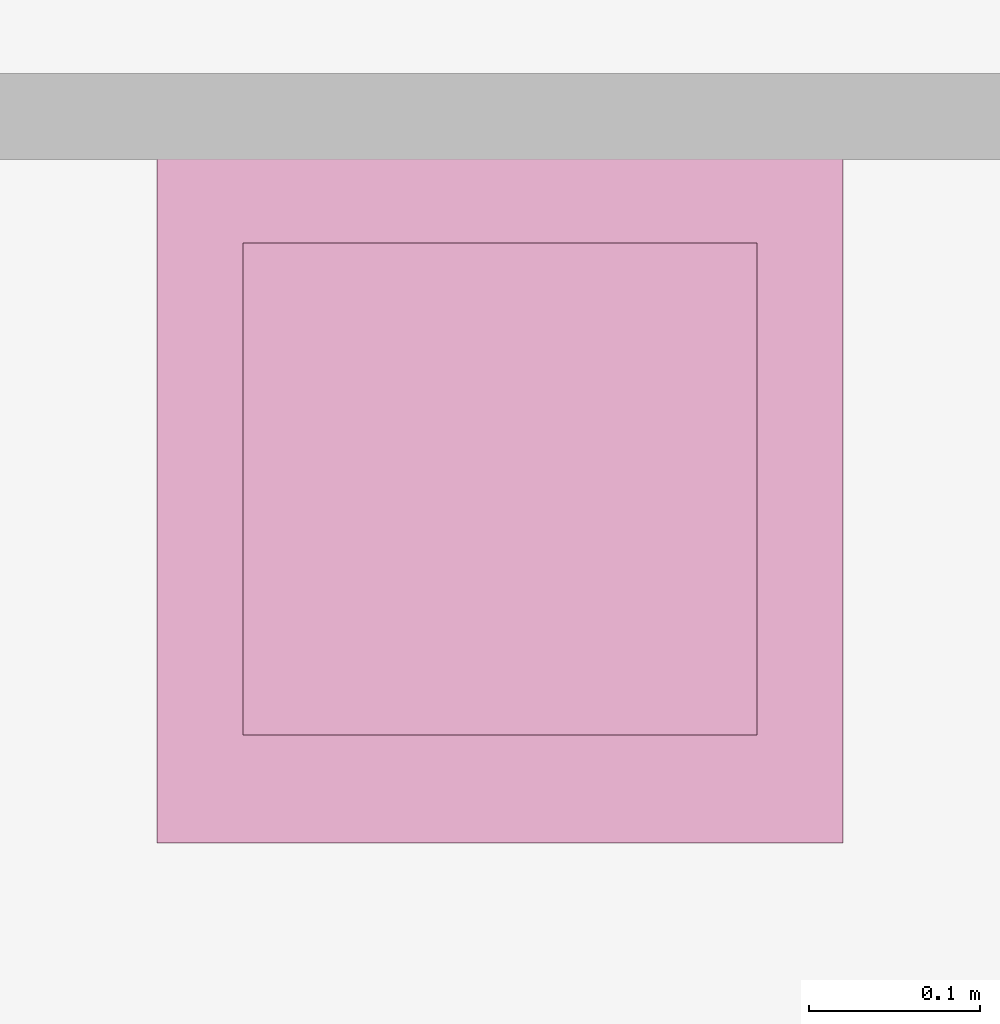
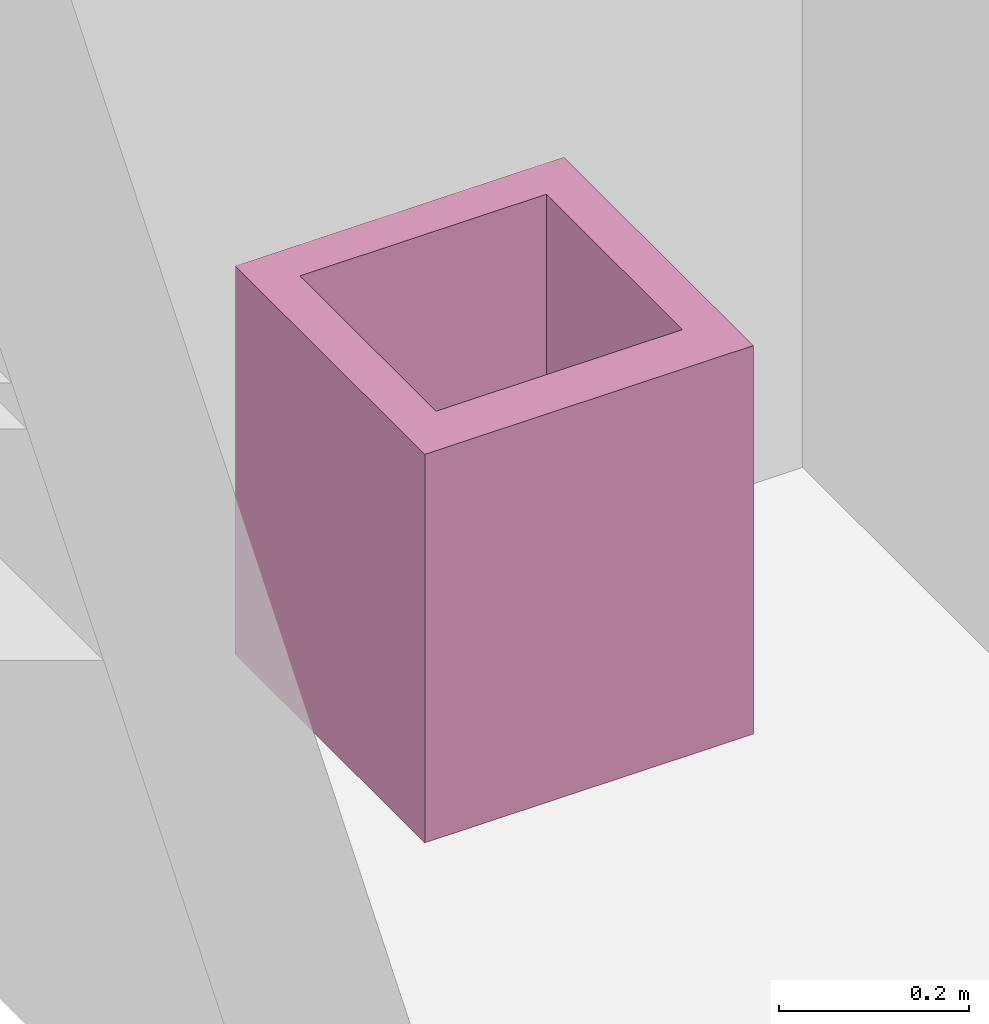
"""IFC4 building model written with IfcOpenShell, lengths in metres."""

import ifcopenshell
import ifcopenshell.guid

model = None  # the IFC model being written
_history = None  # IfcOwnerHistory: only IFC2X3 demands one
_inside = {}  # id of a spatial element -> (the spatial element, [elements in it])
_under = {}  # id of a project, library or spatial element -> (it, [spatial elements below it])
_declared = {}  # id of a project -> (the project, [libraries it declares])
_typed = {}  # id of a type object -> (the type object, [elements of that type])
_made_of = {}  # id of a material, layer set ... -> (it, [elements and type objects made of it])


def new_model(schema):
    """Start an empty IFC model of exactly this schema.

    Asked for "IFC4X3", IfcOpenShell would pick the latest addendum, in which some entities
    have other attributes; the version numbers below select the first issue.
    IFC2X3 requires an IfcOwnerHistory on every rooted entity: one is made here for all.
    """
    global model, _history
    if schema == "IFC4X3":
        model = ifcopenshell.file(schema_version=(4, 3, 0, 0))
    else:
        model = ifcopenshell.file(schema=schema)
    _inside.clear()
    _under.clear()
    _declared.clear()
    _typed.clear()
    _made_of.clear()
    _history = None
    if model.schema == "IFC2X3":
        org = make("IfcOrganization", Name="unknown")
        user = make(
            "IfcPersonAndOrganization",
            ThePerson=make("IfcPerson", FamilyName="unknown"),
            TheOrganization=org,
        )
        app = make(
            "IfcApplication",
            ApplicationDeveloper=org,
            Version="unknown",
            ApplicationFullName="unknown",
            ApplicationIdentifier="unknown",
        )
        _history = make(
            "IfcOwnerHistory",
            OwningUser=user,
            OwningApplication=app,
            ChangeAction="ADDED",
            CreationDate=0,
        )
    return model


def make(cls, **values):
    """One entity of the class cls with the attributes given. An attribute that is None is left unset."""
    return model.create_entity(
        cls, **{name: value for name, value in values.items() if value is not None}
    )


def entity(cls, *values):
    """Any entity or typed value of the class cls, its attributes in the order of the schema. None: left unset."""
    e = model.create_entity(cls)
    for i, value in enumerate(values):
        if value is not None:
            e[i] = value
    return e


def rooted(cls, **values):
    """An entity with a GlobalId (a new one), such as an element, a storey or a relation."""
    return make(cls, GlobalId=ifcopenshell.guid.new(), OwnerHistory=_history, **values)


def si_unit(unit_type, name, prefix=None):
    """IfcSIUnit, for example si_unit("LENGTHUNIT", "METRE", prefix="MILLI")."""
    return make("IfcSIUnit", UnitType=unit_type, Prefix=prefix, Name=name)


def converted_unit(unit_type, name, factor, base, dimensions=None, offset=None):
    """IfcConversionBasedUnit, such as the inch: factor (a typed value) times the base unit."""
    return make(
        "IfcConversionBasedUnit"
        if offset is None
        else "IfcConversionBasedUnitWithOffset",
        ConversionOffset=offset,
        Dimensions=None
        if dimensions is None
        else entity("IfcDimensionalExponents", *dimensions),
        UnitType=unit_type,
        Name=name,
        ConversionFactor=make(
            "IfcMeasureWithUnit", ValueComponent=factor, UnitComponent=base
        ),
    )


def derived_unit(unit_type, elements):
    """IfcDerivedUnit: a product of units, each with its exponent."""
    return make(
        "IfcDerivedUnit",
        Elements=[
            make("IfcDerivedUnitElement", Unit=unit, Exponent=power)
            for unit, power in elements
        ],
        UnitType=unit_type,
    )


def assignment(units):
    """IfcUnitAssignment: the units of a project."""
    return None if units is None else make("IfcUnitAssignment", Units=units)


def point(xyz):
    """IfcCartesianPoint."""
    return None if xyz is None else make("IfcCartesianPoint", Coordinates=xyz)


def direction(xyz):
    """IfcDirection."""
    return None if xyz is None else make("IfcDirection", DirectionRatios=xyz)


def frame(location, z_axis=None, x_axis=None):
    """IfcAxis2Placement3D, a coordinate frame: its origin and axes. An axis left out is left unset."""
    return make(
        "IfcAxis2Placement3D",
        Location=point(location),
        Axis=direction(z_axis),
        RefDirection=direction(x_axis),
    )


def origin():
    """The frame at (0, 0, 0) with its axes left unset."""
    return frame((0.0, 0.0, 0.0))


def place(relative_to, where):
    """IfcLocalPlacement: puts the frame where relative to a parent placement (None: the world)."""
    return make(
        "IfcLocalPlacement", PlacementRelTo=relative_to, RelativePlacement=where
    )


def context(
    kind, dimensions, precision=None, world=None, true_north=None, identifier=None
):
    """IfcGeometricRepresentationContext, for example the 3D "Model" context."""
    return make(
        "IfcGeometricRepresentationContext",
        ContextIdentifier=identifier,
        ContextType=kind,
        CoordinateSpaceDimension=dimensions,
        Precision=precision,
        WorldCoordinateSystem=world,
        TrueNorth=true_north,
    )


def subcontext(parent, identifier, kind, view, scale=None):
    """IfcGeometricRepresentationSubContext, for example "Body" below "Model"."""
    return make(
        "IfcGeometricRepresentationSubContext",
        ContextIdentifier=identifier,
        ContextType=kind,
        ParentContext=parent,
        TargetScale=scale,
        TargetView=view,
    )


def project(units=None, contexts=None):
    """IfcProject with its units and contexts."""
    return rooted(
        "IfcProject",
        Name="project",
        RepresentationContexts=contexts,
        UnitsInContext=assignment(units),
    )


def spatial(cls, under=None, at=None, **own):
    """A site, building, storey or space (cls), placed at a placement, below another one or the project."""
    s = rooted(cls, ObjectPlacement=at, **own)
    if under is not None:
        _under.setdefault(under.id(), (under, []))[1].append(s)
    return s


def faces_of(points, faces, orient=None, outer=None):
    """IfcFace entities. A face is a list of loops; a loop is a list of indices into points, from 0.

    orient and outer hold one flag for each loop. By default every Orientation is true, the
    first loop of a face is its IfcFaceOuterBound and the others are IfcFaceBound.
    """
    made = []
    for i, loops in enumerate(faces):
        bounds = []
        for j, loop in enumerate(loops):
            is_outer = j == 0 if outer is None else outer[i][j]
            bounds.append(
                make(
                    "IfcFaceOuterBound" if is_outer else "IfcFaceBound",
                    Bound=make("IfcPolyLoop", Polygon=[points[k] for k in loop]),
                    Orientation=True if orient is None else orient[i][j],
                )
            )
        made.append(make("IfcFace", Bounds=bounds))
    return made


def faceted_brep(points, faces, orient=None, outer=None, voids=None):
    """IfcFacetedBrep: a solid bounded by flat faces; with voids (closed shells), ...WithVoids."""
    shared = [point(p) for p in points]
    hull = make("IfcClosedShell", CfsFaces=faces_of(shared, faces, orient, outer))
    if voids is None:
        return make("IfcFacetedBrep", Outer=hull)
    return make(
        "IfcFacetedBrepWithVoids",
        Outer=hull,
        Voids=[
            make(cls, CfsFaces=faces_of(shared, fs, o, b)) for cls, fs, o, b in voids
        ],
    )


def shape(context_of_items, identifier, shape_type, items):
    """IfcShapeRepresentation: the items that make up one representation, for example the "Body"."""
    return make(
        "IfcShapeRepresentation",
        ContextOfItems=context_of_items,
        RepresentationIdentifier=identifier,
        RepresentationType=shape_type,
        Items=items,
    )


def made_of(thing, what):
    """Note that an element or type object is made of a material, layer set ...; save() writes the relation."""
    if what is not None:
        _made_of.setdefault(what.id(), (what, []))[1].append(thing)
    return thing


def element(
    cls,
    number,
    at=None,
    inside=None,
    cuts=None,
    type_object=None,
    material=None,
    context=None,
    identifier="Body",
    shape_type=None,
    held_by="IfcProductDefinitionShape",
    body=None,
    shapes=None,
    **own,
):
    """One element of the class cls, such as IfcWall. Its Tag is "e" and its number.

    at: its placement. inside: the storey or other place that contains it. cuts: it is an
    opening in that element (IfcRelVoidsElement). A single representation is given by context,
    identifier, shape_type and body (its items); several are given by shapes. held_by: the class
    of the entity that holds the representations. save() writes the other relations.
    """
    e = rooted(cls, Tag="e%d" % number, ObjectPlacement=at, **own)
    if body is not None:
        shapes = [shape(context, identifier, shape_type, body)]
    if shapes is not None:
        e.Representation = make(held_by, Representations=shapes)
    if inside is not None:
        _inside.setdefault(inside.id(), (inside, []))[1].append(e)
    if cuts is not None:
        rooted(
            "IfcRelVoidsElement", RelatingBuildingElement=cuts, RelatedOpeningElement=e
        )
    if type_object is not None:
        _typed.setdefault(type_object.id(), (type_object, []))[1].append(e)
    return made_of(e, material)


def aggregate(whole, parts):
    """IfcRelAggregates: a whole, such as a stair, and the parts it consists of."""
    return rooted("IfcRelAggregates", RelatingObject=whole, RelatedObjects=parts)


def save(model, path):
    """Write the relations noted so far, then the file.

    IfcRelAggregates (storeys below a building ...), IfcRelContainedInSpatialStructure (elements
    in a storey), IfcRelDefinesByType, IfcRelAssociatesMaterial and IfcRelDeclares: one each for
    every whole, place, type object, material and project.
    """
    for whole, parts in _under.values():
        aggregate(whole, parts)
    for where, things in _inside.values():
        rooted(
            "IfcRelContainedInSpatialStructure",
            RelatedElements=things,
            RelatingStructure=where,
        )
    for kind, things in _typed.values():
        rooted("IfcRelDefinesByType", RelatedObjects=things, RelatingType=kind)
    for what, things in _made_of.values():
        rooted("IfcRelAssociatesMaterial", RelatedObjects=things, RelatingMaterial=what)
    for by, libraries in _declared.values():
        rooted("IfcRelDeclares", RelatingContext=by, RelatedDefinitions=libraries)
    model.write(path)


model = new_model("IFC4")

# Units and contexts
model_context = context("Model", 3, precision=1e-05, world=origin())
body_context = subcontext(model_context, "Body", "Model", "MODEL_VIEW")
ifc_project = project(units=[si_unit("LENGTHUNIT", "METRE"), si_unit("AREAUNIT", "SQUARE_METRE"), si_unit("VOLUMEUNIT", "CUBIC_METRE"), si_unit("MASSUNIT", "GRAM", prefix="KILO"), converted_unit("PLANEANGLEUNIT", "DEGREE", entity("IfcPlaneAngleMeasure", 0.0174532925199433), si_unit("PLANEANGLEUNIT", "RADIAN"), dimensions=[0, 0, 0, 0, 0, 0, 0]), derived_unit("THERMALTRANSMITTANCEUNIT", [(si_unit("POWERUNIT", "WATT"), 1), (si_unit("THERMODYNAMICTEMPERATUREUNIT", "KELVIN"), -1), (si_unit("LENGTHUNIT", "METRE"), -2)]), derived_unit("VOLUMETRICFLOWRATEUNIT", [(si_unit("LENGTHUNIT", "METRE"), 3), (converted_unit("TIMEUNIT", "hour", entity("IfcTimeMeasure", 3600.0), si_unit("TIMEUNIT", "SECOND"), dimensions=[0, 0, 1, 0, 0, 0, 0]), -1), (si_unit("LENGTHUNIT", "METRE"), -1)])], contexts=[model_context])

# Building, storeys
building_placement = place(None, origin())
building = spatial("IfcBuilding", under=ifc_project, at=building_placement, Name="HABITATGE PLURIFAMILIAR", CompositionType="ELEMENT")
storey_1_placement = place(building_placement, frame((0.0, 0.0, 6.25)))
storey_1 = spatial("IfcBuildingStorey", under=building, at=storey_1_placement, Name="PLANTA PRIMERA", CompositionType="ELEMENT", Elevation=6.25)
storey_2_placement = place(storey_1_placement, frame((0.0, 0.0, 3.35)))
storey_2 = spatial("IfcBuildingStorey", under=storey_1, at=storey_2_placement, Name="NOU", CompositionType="PARTIAL")

# Furniture
furniture_placement = place(storey_2_placement, frame((416.236937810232, 27.300783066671, -3.35)))
element("IfcFurniture", 1, at=furniture_placement, inside=storey_2, Name="Abocador P1", context=body_context, shape_type="Brep", body=[
    faceted_brep([(0.05, 0.0628648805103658, 0.5), (0.05, 0.35, 0.5), (0.05, 0.35, 0.2), (0.05, 0.0628648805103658, 0.2), (0.35, 0.0628648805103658, 0.5), (0.35, 0.0628648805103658, 0.2), (0.35, 0.35, 0.5), (0.35, 0.35, 0.2), (0.4, 0.4, 0.0), (0.0, 0.4, 0.0), (0.0, 0.0, 0.0), (0.4, 0.0, 0.0), (0.4, 0.4, 0.5), (0.0, 0.4, 0.5), (0.4, 0.0, 0.5), (0.0, 0.0, 0.5)], [[[0, 1, 2, 3]], [[4, 0, 3, 5]], [[1, 6, 7, 2]], [[7, 5, 3, 2]], [[6, 4, 5, 7]], [[8, 9, 10, 11]], [[9, 8, 12, 13]], [[8, 11, 14, 12]], [[11, 10, 15, 14]], [[10, 9, 13, 15]], [[13, 12, 14, 15], [1, 0, 4, 6]]], orient=[[False], [False], [False], [False], [False], [False], [False], [False], [False], [False], [False, False]]),
])

save(model, "model.ifc")
